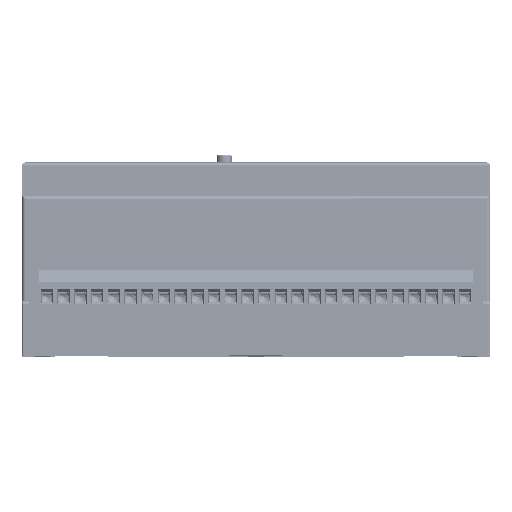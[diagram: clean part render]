
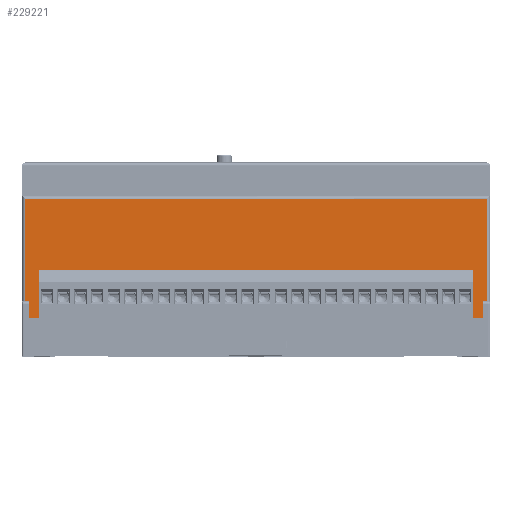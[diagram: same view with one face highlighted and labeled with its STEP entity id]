
A CAD part, top view. The second image highlights one B-rep face of the part: STEP entity #229221.
In plain terms, the highlighted planar face has unit normal (0, 0, 1).
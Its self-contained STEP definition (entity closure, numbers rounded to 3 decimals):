
#5894 = FACE_OUTER_BOUND ( 'NONE', #212444, .T. ) ;
#9871 = CARTESIAN_POINT ( 'NONE',  ( 138.5, -6.5, 0. ) ) ;
#15901 = VECTOR ( 'NONE', #24325, 1000. ) ;
#24325 = DIRECTION ( 'NONE',  ( 0.707, 0.707, 0. ) ) ;
#28740 = VECTOR ( 'NONE', #130453, 1000. ) ;
#32185 = ORIENTED_EDGE ( 'NONE', *, *, #243693, .T. ) ;
#35164 = VECTOR ( 'NONE', #253613, 1000. ) ;
#39602 = DIRECTION ( 'NONE',  ( -1., 0., 0. ) ) ;
#49028 = DIRECTION ( 'NONE',  ( 0., 1., 0. ) ) ;
#49593 = LINE ( 'NONE', #344161, #15901 ) ;
#49821 = EDGE_CURVE ( 'NONE', #197717, #211977, #291421, .T. ) ;
#65140 = DIRECTION ( 'NONE',  ( 1., 0., 0. ) ) ;
#66372 = EDGE_CURVE ( 'NONE', #150932, #272883, #245574, .T. ) ;
#67664 = VECTOR ( 'NONE', #90814, 1000. ) ;
#69942 = VECTOR ( 'NONE', #49028, 1000. ) ;
#70094 = CARTESIAN_POINT ( 'NONE',  ( 1.5, -5., 0. ) ) ;
#73152 = LINE ( 'NONE', #211602, #341667 ) ;
#74669 = VECTOR ( 'NONE', #101414, 1000. ) ;
#79439 = ORIENTED_EDGE ( 'NONE', *, *, #261191, .F. ) ;
#90814 = DIRECTION ( 'NONE',  ( -1., 0., 0. ) ) ;
#93402 = ORIENTED_EDGE ( 'NONE', *, *, #49821, .T. ) ;
#94992 = ORIENTED_EDGE ( 'NONE', *, *, #98896, .T. ) ;
#98896 = EDGE_CURVE ( 'NONE', #130450, #173819, #222577, .T. ) ;
#101414 = DIRECTION ( 'NONE',  ( 0., -1., 0. ) ) ;
#101528 = EDGE_CURVE ( 'NONE', #168661, #273765, #267393, .T. ) ;
#102819 = DIRECTION ( 'NONE',  ( 0., -1., 0. ) ) ;
#106762 = VERTEX_POINT ( 'NONE', #185992 ) ;
#108050 = LINE ( 'NONE', #119168, #199927 ) ;
#109659 = ORIENTED_EDGE ( 'NONE', *, *, #66372, .F. ) ;
#119010 = LINE ( 'NONE', #123779, #35164 ) ;
#119168 = CARTESIAN_POINT ( 'NONE',  ( 1.5, -9., 0. ) ) ;
#121576 = VERTEX_POINT ( 'NONE', #130034 ) ;
#123209 = ORIENTED_EDGE ( 'NONE', *, *, #272816, .T. ) ;
#123779 = CARTESIAN_POINT ( 'NONE',  ( 137., -5., 0. ) ) ;
#126545 = EDGE_CURVE ( 'NONE', #106762, #273765, #108050, .T. ) ;
#130034 = CARTESIAN_POINT ( 'NONE',  ( 137., -5., 0. ) ) ;
#130450 = VERTEX_POINT ( 'NONE', #137316 ) ;
#130453 = DIRECTION ( 'NONE',  ( 0., -1., 0. ) ) ;
#131787 = ORIENTED_EDGE ( 'NONE', *, *, #166892, .T. ) ;
#136140 = CARTESIAN_POINT ( 'NONE',  ( 3., -5., 0. ) ) ;
#137316 = CARTESIAN_POINT ( 'NONE',  ( 139., 30.5, 0. ) ) ;
#137872 = DIRECTION ( 'NONE',  ( 1., 0., 0. ) ) ;
#138431 = CARTESIAN_POINT ( 'NONE',  ( 0., 30.5, 0. ) ) ;
#150932 = VERTEX_POINT ( 'NONE', #223360 ) ;
#166892 = EDGE_CURVE ( 'NONE', #121576, #310718, #119010, .T. ) ;
#168661 = VERTEX_POINT ( 'NONE', #213737 ) ;
#169357 = CARTESIAN_POINT ( 'NONE',  ( 1.5, -5., 0. ) ) ;
#169664 = EDGE_CURVE ( 'NONE', #211977, #130450, #338114, .T. ) ;
#173819 = VERTEX_POINT ( 'NONE', #317042 ) ;
#179649 = CARTESIAN_POINT ( 'NONE',  ( 0., 31.5, 0. ) ) ;
#180818 = DIRECTION ( 'NONE',  ( 0., 0., -1. ) ) ;
#185992 = CARTESIAN_POINT ( 'NONE',  ( 1., -9., 0. ) ) ;
#186840 = ORIENTED_EDGE ( 'NONE', *, *, #126545, .T. ) ;
#191132 = DIRECTION ( 'NONE',  ( -1., 0., 0. ) ) ;
#194663 = CARTESIAN_POINT ( 'NONE',  ( 1.5, -9., 0. ) ) ;
#195806 = CARTESIAN_POINT ( 'NONE',  ( 138.5, -9., 0. ) ) ;
#197717 = VERTEX_POINT ( 'NONE', #195806 ) ;
#198928 = VECTOR ( 'NONE', #39602, 1000. ) ;
#199927 = VECTOR ( 'NONE', #65140, 1000. ) ;
#202841 = DIRECTION ( 'NONE',  ( -1., 0., 0. ) ) ;
#205819 = VECTOR ( 'NONE', #296570, 1000. ) ;
#211602 = CARTESIAN_POINT ( 'NONE',  ( 1., 31.5, 0. ) ) ;
#211977 = VERTEX_POINT ( 'NONE', #225903 ) ;
#212444 = EDGE_LOOP ( 'NONE', ( #335314, #186840, #267939, #123209, #79439, #109659, #259474, #131787, #32185, #93402, #302375, #94992 ) ) ;
#213737 = CARTESIAN_POINT ( 'NONE',  ( 1.5, -6.5, 0. ) ) ;
#222577 = LINE ( 'NONE', #138431, #205819 ) ;
#223360 = CARTESIAN_POINT ( 'NONE',  ( 95., -5., 0. ) ) ;
#225903 = CARTESIAN_POINT ( 'NONE',  ( 139., -9., 0. ) ) ;
#229221 = ADVANCED_FACE ( 'NONE', ( #5894 ), #286040, .F. ) ;
#238897 = LINE ( 'NONE', #169357, #67664 ) ;
#240792 = AXIS2_PLACEMENT_3D ( 'NONE', #179649, #180818, #202841 ) ;
#243693 = EDGE_CURVE ( 'NONE', #310718, #197717, #280051, .T. ) ;
#245574 = LINE ( 'NONE', #297774, #325376 ) ;
#253613 = DIRECTION ( 'NONE',  ( 0.707, -0.707, 0. ) ) ;
#259474 = ORIENTED_EDGE ( 'NONE', *, *, #273277, .F. ) ;
#261191 = EDGE_CURVE ( 'NONE', #272883, #317077, #320779, .T. ) ;
#264450 = CARTESIAN_POINT ( 'NONE',  ( 139., 31.5, 0. ) ) ;
#267393 = LINE ( 'NONE', #341383, #74669 ) ;
#267939 = ORIENTED_EDGE ( 'NONE', *, *, #101528, .F. ) ;
#272816 = EDGE_CURVE ( 'NONE', #168661, #317077, #49593, .T. ) ;
#272883 = VERTEX_POINT ( 'NONE', #292696 ) ;
#273277 = EDGE_CURVE ( 'NONE', #121576, #150932, #238897, .T. ) ;
#273765 = VERTEX_POINT ( 'NONE', #194663 ) ;
#280051 = LINE ( 'NONE', #317762, #28740 ) ;
#286040 = PLANE ( 'NONE',  #240792 ) ;
#291421 = LINE ( 'NONE', #317093, #320655 ) ;
#292696 = CARTESIAN_POINT ( 'NONE',  ( 45., -5., 0. ) ) ;
#295842 = EDGE_CURVE ( 'NONE', #173819, #106762, #73152, .T. ) ;
#296570 = DIRECTION ( 'NONE',  ( -1., 0., 0. ) ) ;
#297774 = CARTESIAN_POINT ( 'NONE',  ( 1.5, -5., 0. ) ) ;
#302375 = ORIENTED_EDGE ( 'NONE', *, *, #169664, .T. ) ;
#310718 = VERTEX_POINT ( 'NONE', #9871 ) ;
#317042 = CARTESIAN_POINT ( 'NONE',  ( 1., 30.5, 0. ) ) ;
#317077 = VERTEX_POINT ( 'NONE', #136140 ) ;
#317093 = CARTESIAN_POINT ( 'NONE',  ( 140., -9., 0. ) ) ;
#317762 = CARTESIAN_POINT ( 'NONE',  ( 138.5, -5., 0. ) ) ;
#320655 = VECTOR ( 'NONE', #137872, 1000. ) ;
#320779 = LINE ( 'NONE', #70094, #198928 ) ;
#325376 = VECTOR ( 'NONE', #191132, 1000. ) ;
#335314 = ORIENTED_EDGE ( 'NONE', *, *, #295842, .T. ) ;
#338114 = LINE ( 'NONE', #264450, #69942 ) ;
#341383 = CARTESIAN_POINT ( 'NONE',  ( 1.5, -5., 0. ) ) ;
#341667 = VECTOR ( 'NONE', #102819, 1000. ) ;
#344161 = CARTESIAN_POINT ( 'NONE',  ( 1.5, -6.5, 0. ) ) ;
